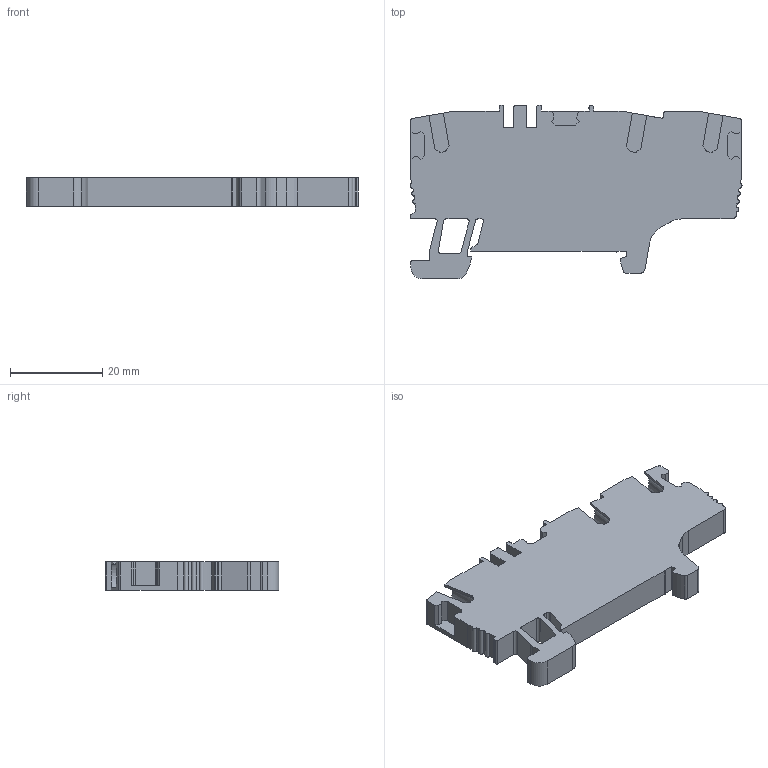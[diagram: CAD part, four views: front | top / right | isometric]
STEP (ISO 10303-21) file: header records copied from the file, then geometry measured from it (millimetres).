
FILE_DESCRIPTION(('Creo Elements/Direct Modeling STEP Export'),'2;1');
FILE_NAME('EFC.4_1+2.stp','2018-11-08T10:26:10',(''),(''),'Creo Elements/Direct Modeling STEP processor for AP214 (Solid Model)','Creo Elements/Direct Modeling 20.1 10-Mar-2018 (C) Parametric Technology GmbH','');
FILE_SCHEMA(('AUTOMOTIVE_DESIGN { 1 0 10303 214 1 1 1 1 }'));
Length unit declared in the file: millimetre
Products named in the file (1): EFC.4_1+2
Bounding box: 72.16 x 37.7 x 6.2 mm (x, y, z)
Volume: 11454.8 mm3; surface area: 6513.6 mm2
Topology: 1 solids, 1 shells, 238 faces, 689 edges, 460 vertices
Faces by surface type: plane 167, cylinder 71
Entity records: 7991 total; most frequent: ORIENTED_EDGE 1378, CARTESIAN_POINT 1362, DIRECTION 1277, EDGE_CURVE 689, VECTOR 527, LINE 527, VERTEX_POINT 460, AXIS2_PLACEMENT_3D 375
